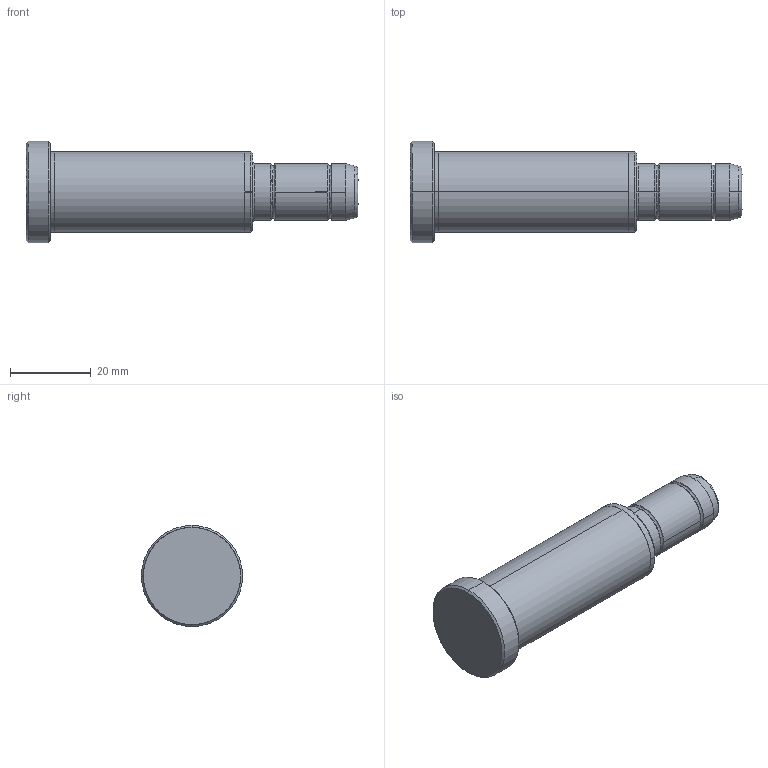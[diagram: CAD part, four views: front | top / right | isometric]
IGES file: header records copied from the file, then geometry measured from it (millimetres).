
Start section: SolidWorks IGES file using analytic representation for surfaces
Global section: file name: C:\Users\Dell\Desktop\deltakont\kontrol edilecekler\D02\Ø14\D02_14x56x26.IGS; native system: SolidWorks 2010; preprocessor: SolidWorks 2010; author: Dell; date: 111225.225419; units: millimetre
Bounding box: 82 x 25 x 25 mm (x, y, z)
Surface area: 5666 mm2 (no closed solid volume)
Topology: 0 solids, 0 shells, 42 faces, 479 edges, 479 vertices
Faces by surface type: revolution 24, bspline 18
